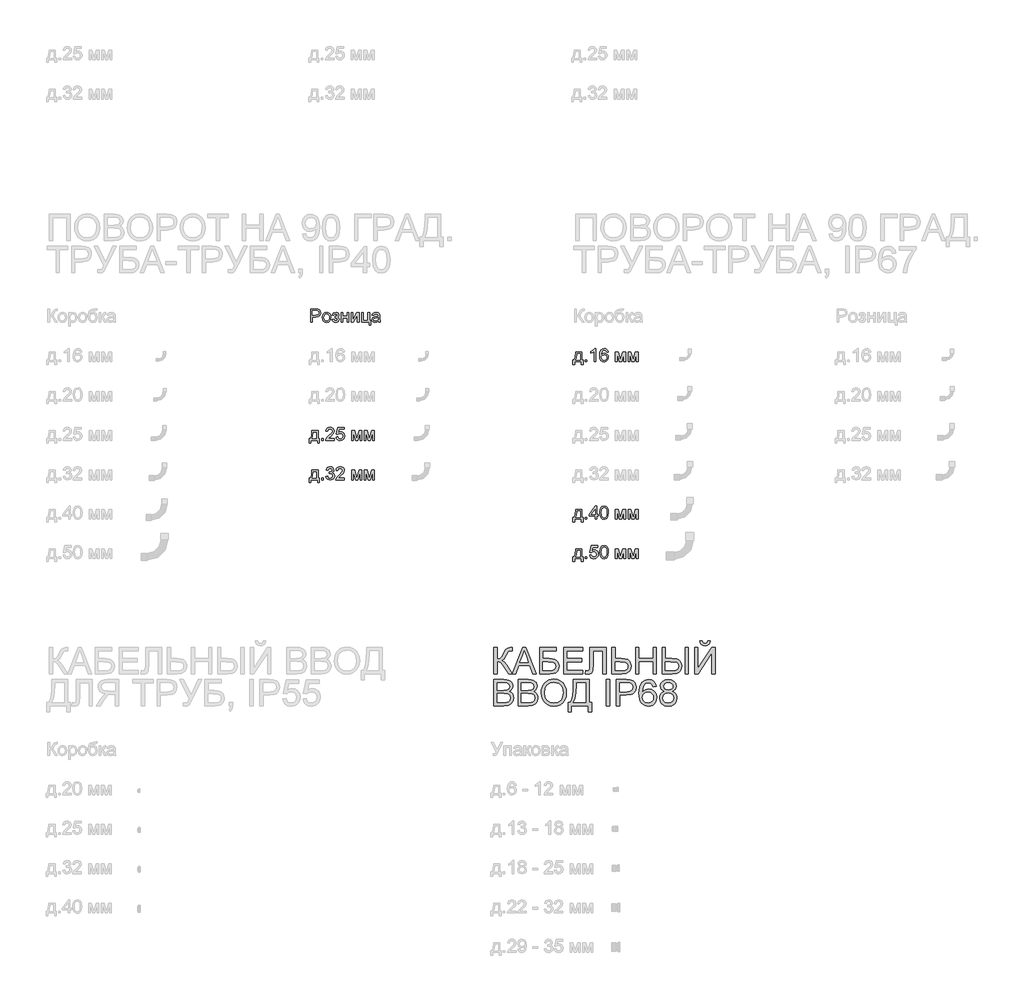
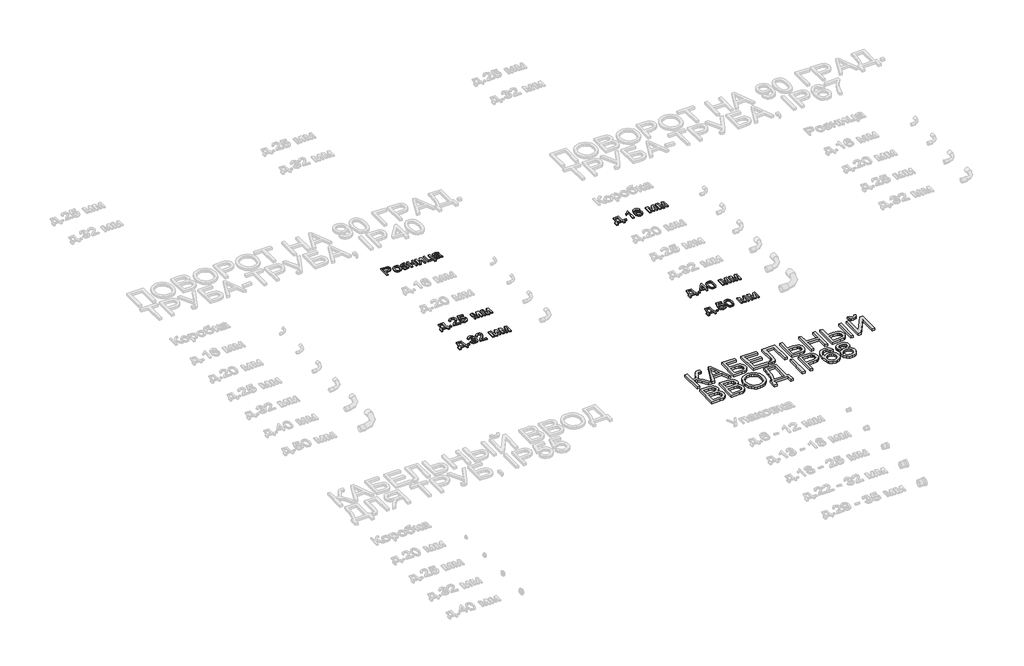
# One storey, part 64 of 98: 7 proxies.
"""IFC4 building model written with IfcOpenShell, lengths in millimetres."""

from ifc_helpers import new_model, si_unit, origin, origin_with_axes, place, context, project, spatial, polyline, outline, extrude, element, save

model = new_model("IFC4")

# Units and contexts
model_context = context("Model", 3, world=origin())
ifc_project = project(units=[si_unit("LENGTHUNIT", "METRE", prefix="MILLI")], contexts=[model_context])

# Site, building, storey
site = spatial("IfcSite", under=ifc_project)
building = spatial("IfcBuilding", under=site)
storey = spatial("IfcBuildingStorey", under=building, Name="Этаж 01", Elevation=0.0)

# Proxies
placement = place(None, origin())
element("IfcBuildingElementProxy", 1, Name="100", ObjectType="100", at=placement, inside=storey, context=model_context, shape_type="SweptSolid", body=[
    extrude(outline(polyline([(1963.5964075, -20759.5121665), (1963.5964075, -20659.0558563), (2000.8260654, -20659.0558563), (2015.8356508, -20660.0123495), (2028.0370703, -20664.7089763), (2035.9465332, -20674.421061), (2038.9386401, -20688.1185339), (2036.9183548, -20699.9582028), (2030.8574989, -20709.8235716), (2019.5236678, -20716.4822358), (2001.6844567, -20718.7017905), (1976.1534462, -20718.7017905), (1976.1534462, -20759.5121665), (1963.5964075, -20759.5121665)]), holes=[polyline([(1976.1534462, -20706.1447517), (2002.4202207, -20706.1447517), (2020.9124223, -20701.533964), (2025.0143065, -20695.9850773), (2026.3816013, -20688.5599923), (2023.1565025, -20678.1611946), (2014.6829539, -20672.4712864), (2002.1259151, -20671.6128951), (1976.1534462, -20671.6128951), (1976.1534462, -20706.1447517)])]), origin_with_axes(), (0.0, 0.0, 1.0), 10.0),
    extrude(outline(polyline([(2051.4956788, -20722.6258651), (2054.2118742, -20704.8387706), (2062.3604604, -20692.3369141), (2072.4281644, -20686.2116789), (2084.4824311, -20684.1699338), (2097.6740663, -20686.656203), (2108.2108198, -20694.1150104), (2115.1178042, -20705.957745), (2117.4201324, -20721.5957955), (2113.348905, -20743.9384953), (2101.490842, -20756.5813732), (2084.4824311, -20761.0817963), (2071.1313803, -20758.6047242), (2060.6068896, -20751.1735079), (2053.7734815, -20739.082453), (2051.4956788, -20722.6258651)]), holes=[polyline([(2064.0527176, -20722.6013396), (2065.5058515, -20733.9658276), (2069.8652531, -20742.0622972), (2076.4258154, -20746.9091424), (2084.4824311, -20748.5247575), (2092.5022586, -20746.8999454), (2099.0505581, -20742.025509), (2103.4099597, -20733.8217405), (2104.8630936, -20722.2089321), (2103.4007627, -20711.175538), (2099.0137699, -20703.189433), (2092.4562733, -20698.3425877), (2084.4824311, -20696.7269726), (2076.4258154, -20698.3364563), (2069.8652531, -20703.1649075), (2065.5058515, -20711.242983), (2064.0527176, -20722.6013396)])]), origin_with_axes(), (0.0, 0.0, 1.0), 10.0),
    extrude(outline(polyline([(2148.8127293, -20726.5499397), (2148.8127293, -20713.9929009), (2158.7210177, -20713.5023916), (2163.7242128, -20710.8904294), (2166.0786576, -20705.4335132), (2162.9271352, -20699.0936801), (2154.7969431, -20696.7269726), (2146.3969709, -20699.0814174), (2140.9645801, -20706.1447517), (2126.8379114, -20704.5751218), (2136.280216, -20689.2712308), (2153.5216188, -20684.1699338), (2164.0185184, -20685.7242353), (2171.9647695, -20690.3871396), (2176.9679647, -20697.2082849), (2178.6356964, -20705.2373094), (2176.2628575, -20713.0364077), (2169.1443409, -20719.0696725), (2177.4462112, -20726.8932962), (2180.2053262, -20738.1504853), (2178.4548211, -20747.3935204), (2173.2033056, -20754.7174378), (2164.806399, -20759.4907067), (2153.6197207, -20761.0817963), (2142.678297, -20759.6102683), (2134.3059159, -20755.1956844), (2128.5025775, -20747.8380445), (2125.2682816, -20737.5373486), (2139.3949502, -20735.9677188), (2145.0603329, -20745.238345), (2154.8214685, -20748.5247575), (2163.993993, -20745.3732351), (2167.6482874, -20737.3166194), (2165.3796818, -20730.719269), (2160.5481649, -20727.1876018), (2151.2652759, -20726.4763633), (2148.8127293, -20726.5499397)])), origin_with_axes(), (0.0, 0.0, 1.0), 10.0),
    extrude(outline(polyline([(2195.9016247, -20685.7395637), (2208.4586634, -20685.7395637), (2208.4586634, -20713.9929009), (2241.4208902, -20713.9929009), (2241.4208902, -20685.7395637), (2253.977929, -20685.7395637), (2253.977929, -20759.5121665), (2241.4208902, -20759.5121665), (2241.4208902, -20726.5499397), (2208.4586634, -20726.5499397), (2208.4586634, -20759.5121665), (2195.9016247, -20759.5121665), (2195.9016247, -20685.7395637)])), origin_with_axes(), (0.0, 0.0, 1.0), 10.0),
    extrude(outline(polyline([(2272.8134871, -20685.7395637), (2285.3705259, -20685.7395637), (2285.3705259, -20742.0009835), (2316.2235626, -20685.7395637), (2332.4594213, -20685.7395637), (2332.4594213, -20759.5121665), (2319.9023825, -20759.5121665), (2319.9023825, -20703.5941032), (2289.2455496, -20759.5121665), (2272.8134871, -20759.5121665), (2272.8134871, -20685.7395637)])), origin_with_axes(), (0.0, 0.0, 1.0), 10.0),
    extrude(outline(polyline([(2351.2949794, -20685.7395637), (2363.8520182, -20685.7395637), (2363.8520182, -20746.9551277), (2399.9535047, -20746.9551277), (2399.9535047, -20685.7395637), (2412.5105434, -20685.7395637), (2412.5105434, -20746.9551277), (2420.3586927, -20746.9551277), (2420.3586927, -20779.9173545), (2407.8016539, -20779.9173545), (2407.8016539, -20759.5121665), (2351.2949794, -20759.5121665), (2351.2949794, -20685.7395637)])), origin_with_axes(), (0.0, 0.0, 1.0), 10.0),
    extrude(outline(polyline([(2478.434997, -20750.0943874), (2466.2581029, -20758.6047242), (2452.8058846, -20761.0817963), (2442.3120507, -20759.5918742), (2434.5712004, -20755.122108), (2429.7979315, -20748.3346852), (2428.2068419, -20739.8917934), (2430.6103376, -20729.9589795), (2436.9256452, -20722.7484924), (2445.7180249, -20718.6282141), (2456.5828065, -20716.7397532), (2478.3614206, -20712.4232711), (2478.434997, -20709.6273679), (2474.9769062, -20700.3567416), (2461.0954923, -20696.7269726), (2448.3913007, -20699.142731), (2442.3335105, -20707.7143815), (2429.7764717, -20706.1447517), (2435.2088625, -20693.8820185), (2446.1472205, -20686.6960569), (2462.714173, -20684.1699338), (2477.9322249, -20686.4017513), (2486.5284009, -20692.0058203), (2490.3788991, -20700.5284199), (2490.9920357, -20711.5158288), (2490.9920357, -20727.1385509), (2491.6296979, -20748.9539532), (2494.1312954, -20759.5121665), (2481.5742567, -20759.5121665), (2478.434997, -20750.0943874)]), holes=[polyline([(2478.434997, -20724.9803098), (2458.1769618, -20728.8308081), (2447.3734938, -20730.8664218), (2442.4806633, -20734.1773597), (2440.7638807, -20739.0088766), (2444.5040143, -20745.8024308), (2455.4791605, -20748.5247575), (2468.183352, -20745.5203879), (2476.3748578, -20738.2485871), (2478.3614206, -20728.5365025), (2478.434997, -20724.9803098)])]), origin_with_axes(), (0.0, 0.0, 1.0), 10.0),
])
element("IfcBuildingElementProxy", 2, Name="100", ObjectType="100", at=placement, inside=storey, context=model_context, shape_type="SweptSolid", body=[
    extrude(outline(polyline([(1973.0141865, -21585.7395637), (2020.1030819, -21585.7395637), (2020.1030819, -21646.9551277), (2029.520861, -21646.9551277), (2029.520861, -21679.9173545), (2016.9638222, -21679.9173545), (2016.9638222, -21659.5121665), (1965.1660373, -21659.5121665), (1965.1660373, -21679.9173545), (1952.6089985, -21679.9173545), (1952.6089985, -21646.9551277), (1960.4571478, -21646.9551277), (1970.1569697, -21623.0060098), (1973.0141865, -21585.7395637)]), holes=[polyline([(1984.0015955, -21598.2966025), (1981.0585395, -21626.905559), (1974.5838164, -21646.9551277), (2007.5460431, -21646.9551277), (2007.5460431, -21598.2966025), (1984.0015955, -21598.2966025)])]), origin_with_axes(), (0.0, 0.0, 1.0), 10.0),
    extrude(outline(polyline([(2046.7867893, -21659.5121665), (2046.7867893, -21646.9551277), (2059.3438281, -21646.9551277), (2059.3438281, -21659.5121665), (2046.7867893, -21659.5121665)])), origin_with_axes(), (0.0, 0.0, 1.0), 10.0),
    extrude(outline(polyline([(2144.1038398, -21646.9551277), (2144.1038398, -21659.5121665), (2078.1793862, -21659.5121665), (2079.5282869, -21650.8546768), (2087.1557069, -21637.5250859), (2102.8765308, -21622.9692216), (2124.5570431, -21602.0489988), (2129.9771711, -21587.8242283), (2124.8636114, -21576.3095219), (2111.509495, -21571.6128951), (2097.5912928, -21576.1991573), (2092.3060548, -21588.8788234), (2079.7490161, -21587.3091935), (2082.7932396, -21575.1629563), (2089.3752616, -21566.2908689), (2099.1517256, -21560.8646095), (2111.7792751, -21559.0558563), (2124.4987951, -21561.0669445), (2134.256865, -21567.1002093), (2140.4648737, -21576.1133182), (2142.5342099, -21587.0639389), (2140.3023925, -21598.9710528), (2132.8834389, -21611.2828369), (2114.8940093, -21628.4874515), (2100.4485097, -21640.5662437), (2094.7831269, -21646.9551277), (2144.1038398, -21646.9551277)])), origin_with_axes(), (0.0, 0.0, 1.0), 10.0),
    extrude(outline(polyline([(2156.6608785, -21632.8284591), (2169.2179173, -21631.2588292), (2175.5454876, -21644.1960127), (2188.6666121, -21648.5247575), (2197.6674583, -21647.019507), (2204.4119615, -21642.5037555), (2208.6242103, -21635.4986692), (2210.0282933, -21626.5254142), (2204.7675808, -21611.6139307), (2198.1610333, -21607.5120464), (2188.8628158, -21606.1447517), (2177.8386187, -21608.3275182), (2170.7875471, -21613.9929009), (2158.2305084, -21612.4232711), (2169.2179173, -21560.6254862), (2217.8764425, -21560.6254862), (2217.8764425, -21573.1825249), (2179.3714604, -21573.1825249), (2174.0003832, -21600.847251), (2182.9705725, -21595.4025974), (2192.3699575, -21593.5877129), (2204.1023275, -21595.8379245), (2213.8420033, -21602.5885591), (2220.3994999, -21612.8769922), (2222.5853321, -21625.7405993), (2220.6171634, -21638.2976381), (2214.7126574, -21649.0397923), (2203.4064174, -21658.0712953), (2188.6175612, -21661.0817963), (2176.2843173, -21659.1473501), (2166.4588023, -21653.3440117), (2159.7234961, -21644.3462312), (2156.6608785, -21632.8284591)])), origin_with_axes(), (0.0, 0.0, 1.0), 10.0),
    extrude(outline(polyline([(2275.9527468, -21585.7395637), (2297.5596827, -21585.7395637), (2314.2124743, -21644.7968867), (2332.1651157, -21585.7395637), (2352.8646093, -21585.7395637), (2352.8646093, -21659.5121665), (2340.3075705, -21659.5121665), (2340.3075705, -21600.111487), (2322.2568273, -21659.5121665), (2305.7757139, -21659.5121665), (2288.5097856, -21597.2665329), (2288.5097856, -21659.5121665), (2275.9527468, -21659.5121665), (2275.9527468, -21585.7395637)])), origin_with_axes(), (0.0, 0.0, 1.0), 10.0),
    extrude(outline(polyline([(2371.7001674, -21585.7395637), (2393.3071033, -21585.7395637), (2409.9598949, -21644.7968867), (2427.9125363, -21585.7395637), (2448.6120299, -21585.7395637), (2448.6120299, -21659.5121665), (2436.0549911, -21659.5121665), (2436.0549911, -21600.111487), (2418.0042479, -21659.5121665), (2401.5231345, -21659.5121665), (2384.2572062, -21597.2665329), (2384.2572062, -21659.5121665), (2371.7001674, -21659.5121665), (2371.7001674, -21585.7395637)])), origin_with_axes(), (0.0, 0.0, 1.0), 10.0),
])
element("IfcBuildingElementProxy", 3, Name="100", ObjectType="100", at=placement, inside=storey, context=model_context, shape_type="SweptSolid", body=[
    extrude(outline(polyline([(1973.0141865, -21885.7395637), (2020.1030819, -21885.7395637), (2020.1030819, -21946.9551277), (2029.520861, -21946.9551277), (2029.520861, -21979.9173545), (2016.9638222, -21979.9173545), (2016.9638222, -21959.5121665), (1965.1660373, -21959.5121665), (1965.1660373, -21979.9173545), (1952.6089985, -21979.9173545), (1952.6089985, -21946.9551277), (1960.4571478, -21946.9551277), (1970.1569697, -21923.0060098), (1973.0141865, -21885.7395637)]), holes=[polyline([(1984.0015955, -21898.2966025), (1981.0585395, -21926.905559), (1974.5838164, -21946.9551277), (2007.5460431, -21946.9551277), (2007.5460431, -21898.2966025), (1984.0015955, -21898.2966025)])]), origin_with_axes(), (0.0, 0.0, 1.0), 10.0),
    extrude(outline(polyline([(2046.7867893, -21959.5121665), (2046.7867893, -21946.9551277), (2059.3438281, -21946.9551277), (2059.3438281, -21959.5121665), (2046.7867893, -21959.5121665)])), origin_with_axes(), (0.0, 0.0, 1.0), 10.0),
    extrude(outline(polyline([(2079.7490161, -21932.8284591), (2092.3060548, -21931.2588292), (2099.2344991, -21944.4780556), (2112.196208, -21948.5247575), (2120.8046467, -21947.1329373), (2127.4510481, -21942.9574767), (2133.1164308, -21929.1741646), (2127.500099, -21916.1879302), (2113.2262776, -21911.049845), (2104.4216352, -21912.4232711), (2105.8195868, -21899.8662323), (2107.830675, -21900.0133851), (2122.079971, -21896.4081416), (2126.8256487, -21891.8341421), (2128.4075413, -21885.3226308), (2123.8212791, -21875.5001815), (2112.0000043, -21871.6128951), (2100.0315767, -21875.5369697), (2093.8756847, -21887.3091935), (2081.3186459, -21885.7395637), (2085.01586, -21874.4639805), (2091.5948163, -21866.0456142), (2100.5956625, -21860.8032958), (2111.5585459, -21859.0558563), (2126.7030214, -21862.5016843), (2137.2980228, -21871.9194634), (2140.9645801, -21884.5868668), (2137.4819638, -21896.1628869), (2127.181268, -21904.47702), (2140.8664782, -21913.0609332), (2145.6734696, -21929.3948938), (2143.2699739, -21941.6331015), (2136.0594868, -21951.860221), (2125.1763111, -21958.7764025), (2111.7547496, -21961.0817963), (2099.6146438, -21959.1136276), (2089.7308809, -21953.2091216), (2082.8576189, -21944.1776186), (2079.7490161, -21932.8284591)])), origin_with_axes(), (0.0, 0.0, 1.0), 10.0),
    extrude(outline(polyline([(2221.0157022, -21946.9551277), (2221.0157022, -21959.5121665), (2155.0912487, -21959.5121665), (2156.4401493, -21950.8546768), (2164.0675694, -21937.5250859), (2179.7883933, -21922.9692216), (2201.4689055, -21902.0489988), (2206.8890336, -21887.8242283), (2201.7754739, -21876.3095219), (2188.4213574, -21871.6128951), (2174.5031553, -21876.1991573), (2169.2179173, -21888.8788234), (2156.6608785, -21887.3091935), (2159.705102, -21875.1629563), (2166.2871241, -21866.2908689), (2176.0635881, -21860.8646095), (2188.6911376, -21859.0558563), (2201.4106576, -21861.0669445), (2211.1687275, -21867.1002093), (2217.3767361, -21876.1133182), (2219.4460724, -21887.0639389), (2217.2142549, -21898.9710528), (2209.7953014, -21911.2828369), (2191.8058718, -21928.4874515), (2177.3603721, -21940.5662437), (2171.6949894, -21946.9551277), (2221.0157022, -21946.9551277)])), origin_with_axes(), (0.0, 0.0, 1.0), 10.0),
    extrude(outline(polyline([(2275.9527468, -21885.7395637), (2297.5596827, -21885.7395637), (2314.2124743, -21944.7968867), (2332.1651157, -21885.7395637), (2352.8646093, -21885.7395637), (2352.8646093, -21959.5121665), (2340.3075705, -21959.5121665), (2340.3075705, -21900.111487), (2322.2568273, -21959.5121665), (2305.7757139, -21959.5121665), (2288.5097856, -21897.2665329), (2288.5097856, -21959.5121665), (2275.9527468, -21959.5121665), (2275.9527468, -21885.7395637)])), origin_with_axes(), (0.0, 0.0, 1.0), 10.0),
    extrude(outline(polyline([(2371.7001674, -21885.7395637), (2393.3071033, -21885.7395637), (2409.9598949, -21944.7968867), (2427.9125363, -21885.7395637), (2448.6120299, -21885.7395637), (2448.6120299, -21959.5121665), (2436.0549911, -21959.5121665), (2436.0549911, -21900.111487), (2418.0042479, -21959.5121665), (2401.5231345, -21959.5121665), (2384.2572062, -21897.2665329), (2384.2572062, -21959.5121665), (2371.7001674, -21959.5121665), (2371.7001674, -21885.7395637)])), origin_with_axes(), (0.0, 0.0, 1.0), 10.0),
])
element("IfcBuildingElementProxy", 4, Name="100", ObjectType="100", at=placement, inside=storey, context=model_context, shape_type="SweptSolid", body=[
    extrude(outline(polyline([(3980.8812818, -20985.7395637), (4027.9701772, -20985.7395637), (4027.9701772, -21046.9551277), (4037.3879562, -21046.9551277), (4037.3879562, -21079.9173545), (4024.8309175, -21079.9173545), (4024.8309175, -21059.5121665), (3973.0331326, -21059.5121665), (3973.0331326, -21079.9173545), (3960.4760938, -21079.9173545), (3960.4760938, -21046.9551277), (3968.324243, -21046.9551277), (3978.024065, -21023.0060098), (3980.8812818, -20985.7395637)]), holes=[polyline([(3991.8686907, -20998.2966025), (3988.9256347, -21026.905559), (3982.4509116, -21046.9551277), (4015.4131384, -21046.9551277), (4015.4131384, -20998.2966025), (3991.8686907, -20998.2966025)])]), origin_with_axes(), (0.0, 0.0, 1.0), 10.0),
    extrude(outline(polyline([(4054.6538845, -21059.5121665), (4054.6538845, -21046.9551277), (4067.2109233, -21046.9551277), (4067.2109233, -21059.5121665), (4054.6538845, -21059.5121665)])), origin_with_axes(), (0.0, 0.0, 1.0), 10.0),
    extrude(outline(polyline([(4134.7050067, -21059.5121665), (4122.1479679, -21059.5121665), (4122.1479679, -20981.2268779), (4110.2531168, -20989.7004265), (4097.0338904, -20996.0402596), (4097.0338904, -20984.1699338), (4115.4402529, -20972.4222355), (4126.6116028, -20959.0558563), (4134.7050067, -20959.0558563), (4134.7050067, -21059.5121665)])), origin_with_axes(), (0.0, 0.0, 1.0), 10.0),
    extrude(outline(polyline([(4228.8827975, -20985.7395637), (4216.3257587, -20987.3091935), (4211.5678182, -20976.8368194), (4198.986254, -20971.6128951), (4187.6554885, -20974.6540529), (4179.0838381, -20986.0706575), (4175.5153827, -21008.4501455), (4186.5886308, -20998.4314925), (4200.3106292, -20995.1573428), (4211.9111748, -20997.3952916), (4221.6477849, -21004.109138), (4228.2512667, -21014.3669143), (4230.4524273, -21027.2366527), (4226.3076235, -21044.5638947), (4214.9032816, -21056.8266279), (4198.4466937, -21061.0817963), (4184.2004635, -21058.2613677), (4172.8543696, -21049.8000818), (4165.4323503, -21034.8640728), (4162.9583439, -21012.6194748), (4165.7051962, -20987.6096305), (4173.9457529, -20970.5092491), (4185.1968105, -20961.9192045), (4199.7710689, -20959.0558563), (4210.7891347, -20960.8278213), (4219.6121712, -20966.1437161), (4225.7925887, -20974.5866079), (4228.8827975, -20985.7395637)]), holes=[polyline([(4175.5153827, -21027.040449), (4178.4216505, -21037.9174933), (4186.1471724, -21045.8146935), (4197.4656751, -21048.5247575), (4205.752217, -21047.1206746), (4212.266794, -21042.9084257), (4216.4882399, -21036.2865498), (4217.8953885, -21027.6535857), (4216.506634, -21019.3670437), (4212.3403704, -21013.0486705), (4205.7154288, -21009.0479538), (4196.9506403, -21007.7143815), (4181.7571139, -21013.0486705), (4177.0758155, -21019.2137596), (4175.5153827, -21027.040449)])]), origin_with_axes(), (0.0, 0.0, 1.0), 10.0),
    extrude(outline(polyline([(4283.8198421, -20985.7395637), (4305.4267779, -20985.7395637), (4322.0795696, -21044.7968867), (4340.0322109, -20985.7395637), (4360.7317045, -20985.7395637), (4360.7317045, -21059.5121665), (4348.1746658, -21059.5121665), (4348.1746658, -21000.111487), (4330.1239225, -21059.5121665), (4313.6428092, -21059.5121665), (4296.3768808, -20997.2665329), (4296.3768808, -21059.5121665), (4283.8198421, -21059.5121665), (4283.8198421, -20985.7395637)])), origin_with_axes(), (0.0, 0.0, 1.0), 10.0),
    extrude(outline(polyline([(4379.5672627, -20985.7395637), (4401.1741985, -20985.7395637), (4417.8269902, -21044.7968867), (4435.7796316, -20985.7395637), (4456.4791251, -20985.7395637), (4456.4791251, -21059.5121665), (4443.9220864, -21059.5121665), (4443.9220864, -21000.111487), (4425.8713431, -21059.5121665), (4409.3902298, -21059.5121665), (4392.1243015, -20997.2665329), (4392.1243015, -21059.5121665), (4379.5672627, -21059.5121665), (4379.5672627, -20985.7395637)])), origin_with_axes(), (0.0, 0.0, 1.0), 10.0),
])
element("IfcBuildingElementProxy", 5, Name="100", ObjectType="100", at=placement, inside=storey, context=model_context, shape_type="SweptSolid", body=[
    extrude(outline(polyline([(3980.8812818, -22185.7395637), (4027.9701772, -22185.7395637), (4027.9701772, -22246.9551277), (4037.3879562, -22246.9551277), (4037.3879562, -22279.9173545), (4024.8309175, -22279.9173545), (4024.8309175, -22259.5121665), (3973.0331326, -22259.5121665), (3973.0331326, -22279.9173545), (3960.4760938, -22279.9173545), (3960.4760938, -22246.9551277), (3968.324243, -22246.9551277), (3978.024065, -22223.0060098), (3980.8812818, -22185.7395637)]), holes=[polyline([(3991.8686907, -22198.2966025), (3988.9256347, -22226.905559), (3982.4509116, -22246.9551277), (4015.4131384, -22246.9551277), (4015.4131384, -22198.2966025), (3991.8686907, -22198.2966025)])]), origin_with_axes(), (0.0, 0.0, 1.0), 10.0),
    extrude(outline(polyline([(4054.6538845, -22259.5121665), (4054.6538845, -22246.9551277), (4067.2109233, -22246.9551277), (4067.2109233, -22259.5121665), (4054.6538845, -22259.5121665)])), origin_with_axes(), (0.0, 0.0, 1.0), 10.0),
    extrude(outline(polyline([(4128.4264873, -22259.5121665), (4128.4264873, -22235.9677188), (4082.9072218, -22235.9677188), (4082.9072218, -22223.41068), (4131.565747, -22160.6254862), (4140.9835261, -22160.6254862), (4140.9835261, -22223.41068), (4153.5405649, -22223.41068), (4153.5405649, -22235.9677188), (4140.9835261, -22235.9677188), (4140.9835261, -22259.5121665), (4128.4264873, -22259.5121665)]), holes=[polyline([(4128.4264873, -22223.41068), (4128.4264873, -22184.6113922), (4098.3582656, -22223.41068), (4128.4264873, -22223.41068)])]), origin_with_axes(), (0.0, 0.0, 1.0), 10.0),
    extrude(outline(polyline([(4164.5279738, -22210.0933518), (4168.2190565, -22181.1900897), (4179.1819399, -22164.5250353), (4197.4902005, -22159.0558563), (4212.1564294, -22162.2932179), (4222.285447, -22171.6251578), (4228.1715589, -22186.4875904), (4230.4524273, -22210.0933518), (4226.7981328, -22238.8739865), (4215.8720376, -22255.5758291), (4207.6406779, -22259.7053045), (4197.4902005, -22261.0817963), (4184.4426524, -22258.6905633), (4174.534364, -22251.5168644), (4167.0295713, -22234.5268476), (4164.5279738, -22210.0933518)]), holes=[polyline([(4177.0850125, -22210.0688263), (4178.5565405, -22229.8210238), (4182.9711245, -22241.2529568), (4189.5439494, -22246.7068073), (4197.4902005, -22248.5247575), (4205.4364516, -22246.700676), (4212.0092766, -22241.2284313), (4216.4238606, -22229.7903669), (4217.8953885, -22210.0688263), (4216.4729115, -22190.7611529), (4212.2054804, -22179.2403151), (4205.6449181, -22173.5197501), (4197.3430477, -22171.6128951), (4189.4826358, -22173.2928895), (4183.1673282, -22178.3328729), (4178.6055915, -22190.5710806), (4177.0850125, -22210.0688263)])]), origin_with_axes(), (0.0, 0.0, 1.0), 10.0),
    extrude(outline(polyline([(4283.8198421, -22185.7395637), (4305.4267779, -22185.7395637), (4322.0795696, -22244.7968867), (4340.0322109, -22185.7395637), (4360.7317045, -22185.7395637), (4360.7317045, -22259.5121665), (4348.1746658, -22259.5121665), (4348.1746658, -22200.111487), (4330.1239225, -22259.5121665), (4313.6428092, -22259.5121665), (4296.3768808, -22197.2665329), (4296.3768808, -22259.5121665), (4283.8198421, -22259.5121665), (4283.8198421, -22185.7395637)])), origin_with_axes(), (0.0, 0.0, 1.0), 10.0),
    extrude(outline(polyline([(4379.5672627, -22185.7395637), (4401.1741985, -22185.7395637), (4417.8269902, -22244.7968867), (4435.7796316, -22185.7395637), (4456.4791251, -22185.7395637), (4456.4791251, -22259.5121665), (4443.9220864, -22259.5121665), (4443.9220864, -22200.111487), (4425.8713431, -22259.5121665), (4409.3902298, -22259.5121665), (4392.1243015, -22197.2665329), (4392.1243015, -22259.5121665), (4379.5672627, -22259.5121665), (4379.5672627, -22185.7395637)])), origin_with_axes(), (0.0, 0.0, 1.0), 10.0),
])
element("IfcBuildingElementProxy", 6, Name="100", ObjectType="100", at=placement, inside=storey, context=model_context, shape_type="SweptSolid", body=[
    extrude(outline(polyline([(3980.8812818, -22485.7395637), (4027.9701772, -22485.7395637), (4027.9701772, -22546.9551277), (4037.3879562, -22546.9551277), (4037.3879562, -22579.9173545), (4024.8309175, -22579.9173545), (4024.8309175, -22559.5121665), (3973.0331326, -22559.5121665), (3973.0331326, -22579.9173545), (3960.4760938, -22579.9173545), (3960.4760938, -22546.9551277), (3968.324243, -22546.9551277), (3978.024065, -22523.0060098), (3980.8812818, -22485.7395637)]), holes=[polyline([(3991.8686907, -22498.2966025), (3988.9256347, -22526.905559), (3982.4509116, -22546.9551277), (4015.4131384, -22546.9551277), (4015.4131384, -22498.2966025), (3991.8686907, -22498.2966025)])]), origin_with_axes(), (0.0, 0.0, 1.0), 10.0),
    extrude(outline(polyline([(4054.6538845, -22559.5121665), (4054.6538845, -22546.9551277), (4067.2109233, -22546.9551277), (4067.2109233, -22559.5121665), (4054.6538845, -22559.5121665)])), origin_with_axes(), (0.0, 0.0, 1.0), 10.0),
    extrude(outline(polyline([(4087.6161113, -22532.8284591), (4100.1731501, -22531.2588292), (4106.5007204, -22544.1960127), (4119.6218449, -22548.5247575), (4128.622691, -22547.019507), (4135.3671943, -22542.5037555), (4139.5794431, -22535.4986692), (4140.9835261, -22526.5254142), (4135.7228136, -22511.6139307), (4129.1162661, -22507.5120464), (4119.8180486, -22506.1447517), (4108.7938515, -22508.3275182), (4101.7427799, -22513.9929009), (4089.1857412, -22512.4232711), (4100.1731501, -22460.6254862), (4148.8316753, -22460.6254862), (4148.8316753, -22473.1825249), (4110.3266932, -22473.1825249), (4104.955616, -22500.847251), (4113.9258053, -22495.4025974), (4123.3251903, -22493.5877129), (4135.0575603, -22495.8379245), (4144.7972361, -22502.5885591), (4151.3547327, -22512.8769922), (4153.5405649, -22525.7405993), (4151.5723962, -22538.2976381), (4145.6678902, -22549.0397923), (4134.3616502, -22558.0712953), (4119.572794, -22561.0817963), (4107.2395501, -22559.1473501), (4097.4140351, -22553.3440117), (4090.6787289, -22544.3462312), (4087.6161113, -22532.8284591)])), origin_with_axes(), (0.0, 0.0, 1.0), 10.0),
    extrude(outline(polyline([(4164.5279738, -22510.0933518), (4168.2190565, -22481.1900897), (4179.1819399, -22464.5250353), (4197.4902005, -22459.0558563), (4212.1564294, -22462.2932179), (4222.285447, -22471.6251578), (4228.1715589, -22486.4875904), (4230.4524273, -22510.0933518), (4226.7981328, -22538.8739865), (4215.8720376, -22555.5758291), (4207.6406779, -22559.7053045), (4197.4902005, -22561.0817963), (4184.4426524, -22558.6905633), (4174.534364, -22551.5168644), (4167.0295713, -22534.5268476), (4164.5279738, -22510.0933518)]), holes=[polyline([(4177.0850125, -22510.0688263), (4178.5565405, -22529.8210238), (4182.9711245, -22541.2529568), (4189.5439494, -22546.7068073), (4197.4902005, -22548.5247575), (4205.4364516, -22546.700676), (4212.0092766, -22541.2284313), (4216.4238606, -22529.7903669), (4217.8953885, -22510.0688263), (4216.4729115, -22490.7611529), (4212.2054804, -22479.2403151), (4205.6449181, -22473.5197501), (4197.3430477, -22471.6128951), (4189.4826358, -22473.2928895), (4183.1673282, -22478.3328729), (4178.6055915, -22490.5710806), (4177.0850125, -22510.0688263)])]), origin_with_axes(), (0.0, 0.0, 1.0), 10.0),
    extrude(outline(polyline([(4283.8198421, -22485.7395637), (4305.4267779, -22485.7395637), (4322.0795696, -22544.7968867), (4340.0322109, -22485.7395637), (4360.7317045, -22485.7395637), (4360.7317045, -22559.5121665), (4348.1746658, -22559.5121665), (4348.1746658, -22500.111487), (4330.1239225, -22559.5121665), (4313.6428092, -22559.5121665), (4296.3768808, -22497.2665329), (4296.3768808, -22559.5121665), (4283.8198421, -22559.5121665), (4283.8198421, -22485.7395637)])), origin_with_axes(), (0.0, 0.0, 1.0), 10.0),
    extrude(outline(polyline([(4379.5672627, -22485.7395637), (4401.1741985, -22485.7395637), (4417.8269902, -22544.7968867), (4435.7796316, -22485.7395637), (4456.4791251, -22485.7395637), (4456.4791251, -22559.5121665), (4443.9220864, -22559.5121665), (4443.9220864, -22500.111487), (4425.8713431, -22559.5121665), (4409.3902298, -22559.5121665), (4392.1243015, -22497.2665329), (4392.1243015, -22559.5121665), (4379.5672627, -22559.5121665), (4379.5672627, -22485.7395637)])), origin_with_axes(), (0.0, 0.0, 1.0), 10.0),
])
element("IfcBuildingElementProxy", 7, Name="200", ObjectType="200", at=placement, inside=storey, context=model_context, shape_type="SweptSolid", body=[
    extrude(outline(polyline([(3358.194543, -23236.6247283), (3383.3086206, -23236.6247283), (3383.3086206, -23324.5239997), (3400.3109001, -23322.8623994), (3411.3902795, -23317.8775983), (3420.3482061, -23306.148294), (3430.9861271, -23284.253184), (3444.8430156, -23256.171525), (3460.5393141, -23242.2655856), (3482.9801158, -23236.6247283), (3499.4612292, -23236.9190339), (3499.4612292, -23262.0331114), (3493.9184738, -23261.8859586), (3488.3757184, -23261.7388059), (3476.8732747, -23263.247122), (3468.7553453, -23267.7720706), (3453.8438618, -23293.6219121), (3436.0628987, -23325.1126109), (3418.723394, -23335.5114086), (3438.1107751, -23346.8666995), (3457.2283761, -23370.5337746), (3499.4612292, -23437.5373486), (3470.3249752, -23437.5373486), (3434.6158962, -23380.9325723), (3409.4772932, -23351.3793853), (3397.8706162, -23345.3645147), (3383.3086206, -23343.3595578), (3383.3086206, -23437.5373486), (3358.194543, -23437.5373486), (3358.194543, -23236.6247283)])), origin_with_axes(), (0.0, 0.0, 1.0), 20.0),
    extrude(outline(polyline([(3498.0387521, -23437.5373486), (3578.2370271, -23236.6247283), (3599.6232337, -23236.6247283), (3679.8215087, -23437.5373486), (3653.2849541, -23437.5373486), (3630.2800667, -23374.7521548), (3547.5311432, -23374.7521548), (3524.5753067, -23437.5373486), (3498.0387521, -23437.5373486)]), holes=[polyline([(3556.7527186, -23349.6380772), (3621.1075423, -23349.6380772), (3603.0077481, -23300.243788), (3588.9301304, -23261.7388059), (3576.4221426, -23295.9273059), (3556.7527186, -23349.6380772)])]), origin_with_axes(), (0.0, 0.0, 1.0), 20.0),
    extrude(outline(polyline([(3706.6523689, -23236.6247283), (3832.2227566, -23236.6247283), (3832.2227566, -23261.7388059), (3731.7664464, -23261.7388059), (3731.7664464, -23321.38474), (3778.8062909, -23321.38474), (3802.191323, -23322.6600643), (3820.254329, -23326.486037), (3834.1234802, -23333.8559396), (3844.9269481, -23345.7630535), (3851.8799178, -23361.09147), (3854.1975744, -23378.7252803), (3852.5482368, -23393.5325306), (3847.600224, -23407.3464995), (3839.3780614, -23419.4436858), (3827.9062745, -23429.1005882), (3810.2111505, -23435.4281585), (3783.3189767, -23437.5373486), (3706.6523689, -23437.5373486), (3706.6523689, -23236.6247283)]), holes=[polyline([(3731.7664464, -23412.4232711), (3785.5753196, -23412.4232711), (3804.5948187, -23410.3508692), (3818.1941898, -23404.1336635), (3826.3611701, -23393.7716539), (3829.0834969, -23379.2648406), (3827.5261297, -23368.4613727), (3822.8540284, -23359.5954166), (3815.404418, -23353.0225916), (3805.5145237, -23349.098517), (3767.6717291, -23346.4988175), (3731.7664464, -23346.4988175), (3731.7664464, -23412.4232711)])]), origin_with_axes(), (0.0, 0.0, 1.0), 20.0),
    extrude(outline(polyline([(3888.729431, -23437.5373486), (3888.729431, -23236.6247283), (4033.1353769, -23236.6247283), (4033.1353769, -23261.7388059), (3913.8435086, -23261.7388059), (3913.8435086, -23321.38474), (4026.8568575, -23321.38474), (4026.8568575, -23346.4988175), (3913.8435086, -23346.4988175), (3913.8435086, -23412.4232711), (4036.2746365, -23412.4232711), (4036.2746365, -23437.5373486), (3888.729431, -23437.5373486)])), origin_with_axes(), (0.0, 0.0, 1.0), 20.0),
    extrude(outline(polyline([(4089.6420513, -23236.6247283), (4212.0731793, -23236.6247283), (4212.0731793, -23437.5373486), (4186.9591018, -23437.5373486), (4186.9591018, -23261.7388059), (4114.7561289, -23261.7388059), (4114.7561289, -23364.2552552), (4111.8375984, -23409.9952499), (4107.3187812, -23422.9201707), (4099.5993906, -23432.6077299), (4089.0289147, -23438.6593887), (4075.9568411, -23440.6766083), (4055.1101947, -23437.5373486), (4058.2494544, -23412.4232711), (4070.2669329, -23415.5625308), (4078.7588756, -23413.876405), (4084.8105344, -23408.8180275), (4088.4341721, -23397.5056562), (4089.6420513, -23377.0575486), (4089.6420513, -23236.6247283)])), origin_with_axes(), (0.0, 0.0, 1.0), 20.0),
    extrude(outline(polyline([(4256.022815, -23236.6247283), (4281.1368925, -23236.6247283), (4281.1368925, -23321.38474), (4328.176737, -23321.38474), (4356.5588329, -23323.3529087), (4375.878769, -23329.2574147), (4388.5829606, -23338.5525664), (4397.1178229, -23350.6926723), (4401.9554711, -23364.4575903), (4403.5680205, -23378.6271785), (4399.6929968, -23400.6755727), (4388.0679258, -23419.8299619), (4378.6501467, -23427.5769436), (4365.8969042, -23433.1105019), (4330.384029, -23437.5373486), (4256.022815, -23437.5373486), (4256.022815, -23236.6247283)]), holes=[polyline([(4281.1368925, -23412.4232711), (4330.334978, -23412.4232711), (4355.0811736, -23409.9400676), (4369.3795204, -23402.4904572), (4376.1853374, -23391.5337051), (4378.453943, -23378.5290766), (4376.8107367, -23367.9953888), (4371.881118, -23359.1539582), (4364.2107784, -23352.5750018), (4354.3454096, -23348.8287368), (4317.1893281, -23346.4988175), (4281.1368925, -23346.4988175), (4281.1368925, -23412.4232711)])]), origin_with_axes(), (0.0, 0.0, 1.0), 20.0),
    extrude(outline(polyline([(4438.0998771, -23437.5373486), (4438.0998771, -23236.6247283), (4463.2139547, -23236.6247283), (4463.2139547, -23318.2454803), (4569.9487842, -23318.2454803), (4569.9487842, -23236.6247283), (4595.0628618, -23236.6247283), (4595.0628618, -23437.5373486), (4569.9487842, -23437.5373486), (4569.9487842, -23343.3595578), (4463.2139547, -23343.3595578), (4463.2139547, -23437.5373486), (4438.0998771, -23437.5373486)])), origin_with_axes(), (0.0, 0.0, 1.0), 20.0),
    extrude(outline(polyline([(4639.0124974, -23236.6247283), (4664.126575, -23236.6247283), (4664.126575, -23321.38474), (4712.3926927, -23321.38474), (4751.6702271, -23325.7747985), (4765.2297443, -23331.2623716), (4774.7364282, -23338.9449739), (4785.9568291, -23357.6824302), (4789.6969627, -23378.7743313), (4785.7422312, -23400.8043314), (4773.8780369, -23419.9035383), (4764.2717183, -23427.6183303), (4751.2716883, -23433.128896), (4715.090494, -23437.5373486), (4639.0124974, -23437.5373486), (4639.0124974, -23236.6247283)]), holes=[polyline([(4664.126575, -23412.4232711), (4714.8452394, -23412.4232711), (4737.4025371, -23410.4305769), (4752.7861358, -23404.4524945), (4761.6336978, -23394.0843536), (4764.5828851, -23378.921484), (4762.7986575, -23367.9708633), (4757.4459744, -23358.9577544), (4749.2667314, -23352.3726667), (4739.0028237, -23348.7061095), (4701.258131, -23346.4988175), (4664.126575, -23346.4988175), (4664.126575, -23412.4232711)])]), origin_with_axes(), (0.0, 0.0, 1.0), 20.0),
    extrude(outline(polyline([(4814.8110402, -23236.6247283), (4839.9251177, -23236.6247283), (4839.9251177, -23437.5373486), (4814.8110402, -23437.5373486), (4814.8110402, -23236.6247283)])), origin_with_axes(), (0.0, 0.0, 1.0), 20.0),
    extrude(outline(polyline([(4887.0140131, -23236.6247283), (4912.1280907, -23236.6247283), (4912.1280907, -23395.745954), (5017.2932904, -23236.6247283), (5043.9769977, -23236.6247283), (5043.9769977, -23437.5373486), (5018.8629202, -23437.5373486), (5018.8629202, -23278.8575814), (4913.9429752, -23437.5373486), (4887.0140131, -23437.5373486), (4887.0140131, -23236.6247283)])), origin_with_axes(), (0.0, 0.0, 1.0), 20.0),
    extrude(outline(polyline([(4987.4703233, -23186.3965732), (5006.3058814, -23186.3965732), (5002.2530481, -23202.4791478), (4994.1167247, -23214.3310794), (4982.264793, -23221.633537), (4967.0651353, -23224.0676895), (4950.5717592, -23221.6519311), (4937.7817285, -23214.4046558), (4929.0383997, -23202.5711183), (4924.6851294, -23186.3965732), (4943.5206876, -23186.3965732), (4950.5840219, -23200.5477673), (4964.8087924, -23205.2321314), (4980.406989, -23200.6949201), (4987.4703233, -23186.3965732)])), origin_with_axes(), (0.0, 0.0, 1.0), 20.0),
    extrude(outline(polyline([(3358.194543, -23681.4869843), (3358.194543, -23480.574364), (3434.8611508, -23480.574364), (3455.9469205, -23482.0520234), (3472.4096398, -23486.4850014), (3485.0279922, -23493.9836627), (3494.5806614, -23504.658372), (3500.595532, -23517.2154107), (3502.6004889, -23530.3610607), (3500.9143631, -23542.458247), (3495.8559856, -23553.831932), (3487.3885684, -23563.7831399), (3475.4753231, -23571.6128951), (3489.7062249, -23579.0441114), (3500.2215186, -23590.3503514), (3506.7146359, -23604.7835883), (3508.8790083, -23621.5957955), (3502.9683709, -23648.5983339), (3488.3266675, -23667.8262995), (3466.4744769, -23678.0288935), (3434.2725396, -23681.4869843), (3358.194543, -23681.4869843)]), holes=[polyline([(3383.3086206, -23656.3729068), (3434.8120999, -23656.3729068), (3453.4514543, -23655.3918881), (3469.2213292, -23649.9227091), (3479.6691778, -23638.7636219), (3483.7649307, -23621.8410502), (3478.9579393, -23602.3187789), (3472.6610258, -23595.261576), (3463.3842682, -23590.6691824), (3432.3595533, -23587.3091935), (3383.3086206, -23587.3091935), (3383.3086206, -23656.3729068)]), polyline([(3383.3086206, -23562.195116), (3429.1712426, -23562.195116), (3455.9530519, -23560.036875), (3472.0662833, -23550.7417232), (3477.4864113, -23534.3832372), (3472.4341653, -23518.0002256), (3457.9641401, -23508.3126664), (3425.6886264, -23505.6884415), (3383.3086206, -23505.6884415), (3383.3086206, -23562.195116)])]), origin_with_axes(), (0.0, 0.0, 1.0), 20.0),
    extrude(outline(polyline([(3543.4108649, -23681.4869843), (3543.4108649, -23480.574364), (3620.0774727, -23480.574364), (3641.1632424, -23482.0520234), (3657.6259616, -23486.4850014), (3670.2443141, -23493.9836627), (3679.7969832, -23504.658372), (3685.8118538, -23517.2154107), (3687.8168107, -23530.3610607), (3686.1306849, -23542.458247), (3681.0723075, -23553.831932), (3672.6048902, -23563.7831399), (3660.6916449, -23571.6128951), (3674.9225468, -23579.0441114), (3685.4378405, -23590.3503514), (3691.9309577, -23604.7835883), (3694.0953301, -23621.5957955), (3688.1846927, -23648.5983339), (3673.5429893, -23667.8262995), (3651.6907988, -23678.0288935), (3619.4888615, -23681.4869843), (3543.4108649, -23681.4869843)]), holes=[polyline([(3568.5249424, -23656.3729068), (3620.0284217, -23656.3729068), (3638.6677762, -23655.3918881), (3654.437651, -23649.9227091), (3664.8854997, -23638.7636219), (3668.9812526, -23621.8410502), (3664.1742612, -23602.3187789), (3657.8773477, -23595.261576), (3648.60059, -23590.6691824), (3617.5758751, -23587.3091935), (3568.5249424, -23587.3091935), (3568.5249424, -23656.3729068)]), polyline([(3568.5249424, -23562.195116), (3614.3875645, -23562.195116), (3641.1693737, -23560.036875), (3657.2826051, -23550.7417232), (3662.7027332, -23534.3832372), (3657.6504871, -23518.0002256), (3643.180462, -23508.3126664), (3610.9049483, -23505.6884415), (3568.5249424, -23505.6884415), (3568.5249424, -23562.195116)])]), origin_with_axes(), (0.0, 0.0, 1.0), 20.0),
    extrude(outline(polyline([(3719.2094076, -23583.6794245), (3720.8832707, -23560.113517), (3725.9048599, -23539.2515422), (3734.2741753, -23521.0935001), (3745.9912169, -23505.6393906), (3760.3539431, -23493.3000154), (3776.6603125, -23484.4861759), (3794.9103252, -23479.1978722), (3815.103981, -23477.4351043), (3841.4565946, -23480.7460423), (3865.0868815, -23490.6788561), (3884.7072545, -23506.5345701), (3899.0301269, -23527.6142085), (3907.7857184, -23552.8999643), (3910.7042489, -23581.3740307), (3907.6324342, -23610.2282418), (3898.4169902, -23635.8696169), (3883.5668203, -23656.9860434), (3863.590828, -23672.265409), (3840.1628763, -23681.5360352), (3814.9568282, -23684.626244), (3788.1995445, -23681.2110728), (3764.4343676, -23670.9655592), (3744.8630454, -23654.8155397), (3730.6873259, -23633.6868504), (3722.0788872, -23609.3759819), (3719.2094076, -23583.6794245)]), holes=[polyline([(3744.3234852, -23583.9246792), (3749.3450744, -23615.3540643), (3764.4098421, -23639.3031822), (3787.0529789, -23654.4599204), (3814.8096754, -23659.5121665), (3842.9710422, -23654.4108695), (3865.6509672, -23639.1069785), (3874.374369, -23627.834461), (3880.6053703, -23614.4220966), (3885.5901713, -23581.177827), (3883.4564557, -23558.9454917), (3877.055309, -23539.7297888), (3866.5522781, -23524.0150963), (3852.1129098, -23512.285792), (3834.6936973, -23504.9833344), (3815.2511338, -23502.5491818), (3788.2363327, -23507.2396773), (3765.2682334, -23521.3111636), (3756.1049061, -23532.2602515), (3749.5596722, -23546.3455334), (3744.3234852, -23583.9246792)])]), origin_with_axes(), (0.0, 0.0, 1.0), 20.0),
    extrude(outline(polyline([(3964.0716636, -23480.574364), (4083.3635319, -23480.574364), (4083.3635319, -23656.3729068), (4102.1990901, -23656.3729068), (4102.1990901, -23728.5758797), (4077.0850125, -23728.5758797), (4077.0850125, -23681.4869843), (3948.3753652, -23681.4869843), (3948.3753652, -23728.5758797), (3923.2612876, -23728.5758797), (3923.2612876, -23656.3729068), (3938.9575861, -23656.3729068), (3949.944995, -23633.5918142), (3957.7931442, -23601.5462268), (3962.5020338, -23560.2361444), (3964.0716636, -23509.6615671), (3964.0716636, -23480.574364)]), holes=[polyline([(4058.2494544, -23505.6884415), (3989.1857412, -23505.6884415), (3989.1857412, -23515.7929337), (3984.0844442, -23584.6113922), (3976.5306005, -23624.3794359), (3964.0716636, -23656.3729068), (4058.2494544, -23656.3729068), (4058.2494544, -23505.6884415)])]), origin_with_axes(), (0.0, 0.0, 1.0), 20.0),
    extrude(outline(polyline([(4215.212439, -23681.4869843), (4215.212439, -23480.574364), (4240.3265165, -23480.574364), (4240.3265165, -23681.4869843), (4215.212439, -23681.4869843)])), origin_with_axes(), (0.0, 0.0, 1.0), 20.0),
    extrude(outline(polyline([(4290.5546716, -23681.4869843), (4290.5546716, -23480.574364), (4365.0139874, -23480.574364), (4395.0331582, -23482.4873504), (4419.4359973, -23491.880604), (4428.3080847, -23500.2069998), (4435.254923, -23511.3047733), (4439.7430834, -23524.395241), (4441.2391368, -23538.6997192), (4437.1985663, -23562.379057), (4425.0768545, -23582.1097947), (4415.3693684, -23589.8782361), (4402.4091922, -23595.4271229), (4366.7307701, -23599.8662323), (4315.6687491, -23599.8662323), (4315.6687491, -23681.4869843), (4290.5546716, -23681.4869843)]), holes=[polyline([(4315.6687491, -23574.7521548), (4368.2022981, -23574.7521548), (4390.4714215, -23572.4467609), (4405.1867013, -23565.5305794), (4413.3904698, -23554.4328059), (4416.1250593, -23539.582636), (4414.5125099, -23528.3009215), (4409.6748617, -23518.7850406), (4402.2129885, -23511.6236044), (4392.7277644, -23507.4052242), (4367.6136869, -23505.6884415), (4315.6687491, -23505.6884415), (4315.6687491, -23574.7521548)])]), origin_with_axes(), (0.0, 0.0, 1.0), 20.0),
    extrude(outline(polyline([(4595.0628618, -23533.9417788), (4569.9487842, -23537.0810385), (4560.4329033, -23516.1362902), (4549.0408242, -23508.3004037), (4535.2697748, -23505.6884415), (4512.6082439, -23511.7707572), (4503.1720707, -23521.3786086), (4495.4649429, -23534.6039664), (4490.2594127, -23553.3107658), (4488.3280322, -23579.3629424), (4498.4018675, -23567.6091127), (4510.4745283, -23559.3256364), (4523.8715643, -23554.4144118), (4537.9185252, -23552.7773369), (4561.1196163, -23557.2532345), (4580.5928366, -23570.6809274), (4593.7998002, -23591.19648), (4598.2021214, -23616.9359569), (4596.1297195, -23634.9192551), (4589.9125138, -23651.5904408), (4580.0655391, -23665.7293722), (4567.1038301, -23676.1159072), (4551.6159981, -23682.4986598), (4534.1906543, -23684.626244), (4505.6981938, -23678.9853867), (4483.006006, -23662.062815), (4474.3469836, -23648.9539532), (4468.1619675, -23632.190797), (4463.2139547, -23587.701601), (4468.7076591, -23537.6819124), (4475.5747897, -23518.6041653), (4485.1887725, -23503.4811496), (4495.60903, -23493.4594309), (4507.6908879, -23486.3010604), (4536.8394046, -23480.574364), (4558.8755362, -23484.1182939), (4576.5216092, -23494.7500836), (4588.8824442, -23511.6358671), (4595.0628618, -23533.9417788)]), holes=[polyline([(4488.3280322, -23616.5435494), (4494.1405677, -23638.2976381), (4509.5916115, -23654.0920384), (4532.228617, -23659.5121665), (4548.8017009, -23656.7040006), (4561.8308549, -23648.2795029), (4570.2737466, -23635.035751), (4573.0880439, -23617.7698227), (4570.3105348, -23601.1967389), (4561.9780077, -23588.5599923), (4548.7281245, -23580.5585589), (4531.1985474, -23577.8914145), (4514.649989, -23580.5585589), (4500.8114946, -23588.5599923), (4491.4488978, -23600.8901705), (4488.3280322, -23616.5435494)])]), origin_with_axes(), (0.0, 0.0, 1.0), 20.0),
    extrude(outline(polyline([(4656.7689351, -23570.8280802), (4643.3228482, -23564.2062042), (4633.886675, -23555.2298836), (4628.3132628, -23544.0830591), (4626.4554587, -23530.9496719), (4630.5021606, -23511.3170361), (4642.6422665, -23495.0934401), (4661.5146128, -23484.204133), (4685.7580363, -23480.574364), (4710.1486126, -23484.2899722), (4729.2662136, -23495.4367966), (4741.6270486, -23511.91791), (4745.747327, -23531.6363849), (4743.9140484, -23544.3467079), (4738.4142125, -23555.30346), (4729.1865058, -23564.2245983), (4716.1696146, -23570.8280802), (4731.6267897, -23578.7927254), (4742.8778474, -23590.5220296), (4749.7388466, -23605.4519073), (4752.0258464, -23623.0182725), (4747.4886351, -23647.0287041), (4733.8770013, -23666.8698064), (4712.8586766, -23680.1871346), (4686.1013928, -23684.626244), (4659.344109, -23680.1687405), (4638.3257844, -23666.79623), (4624.7141506, -23646.7650553), (4620.1769393, -23622.3315595), (4622.5559095, -23604.0846125), (4629.6928202, -23589.0750271), (4641.2197894, -23577.8178381), (4656.7689351, -23570.8280802)]), holes=[polyline([(4651.5695362, -23531.6854359), (4653.7952223, -23542.6483193), (4660.4722805, -23551.4039108), (4671.4045071, -23557.1428699), (4686.3956984, -23559.0558563), (4701.0374018, -23557.1551327), (4711.8040816, -23551.4529617), (4718.4259575, -23542.9916759), (4720.6332494, -23532.8136073), (4718.3523811, -23522.2492627), (4711.509776, -23513.5120653), (4700.5959434, -23507.6443475), (4686.1013928, -23505.6884415), (4671.5148717, -23507.6014279), (4660.6194333, -23513.340387), (4653.8320105, -23521.752622), (4651.5695362, -23531.6854359)]), polyline([(4645.2910168, -23621.4486427), (4649.4848716, -23640.3577772), (4655.2912757, -23648.4695752), (4664.3227787, -23654.5089713), (4686.2975966, -23659.5121665), (4703.3918466, -23656.8818102), (4716.2186655, -23648.9907414), (4724.238493, -23637.0407079), (4726.9117688, -23622.2334576), (4724.1526539, -23607.1748213), (4715.875309, -23594.961139), (4702.7541845, -23586.8677351), (4685.4637307, -23584.1699338), (4668.608604, -23586.8309469), (4655.9105438, -23594.8139862), (4647.9458986, -23606.7946765), (4645.2910168, -23621.4486427)])]), origin_with_axes(), (0.0, 0.0, 1.0), 20.0),
])

save(model, "model.ifc")
